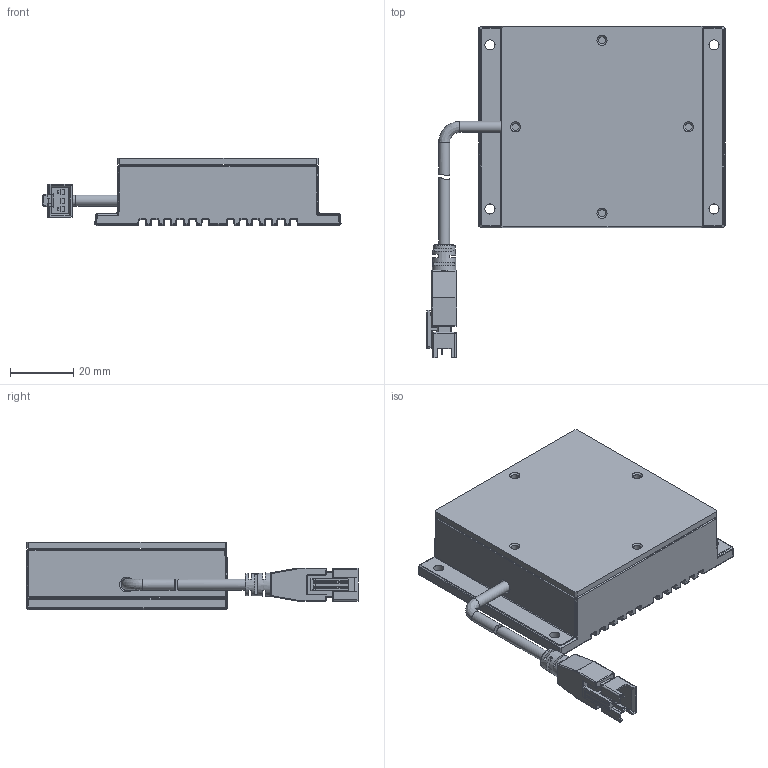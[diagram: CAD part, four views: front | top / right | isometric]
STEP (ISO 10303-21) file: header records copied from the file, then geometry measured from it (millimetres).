
FILE_DESCRIPTION (( 'STEP AP214' ), '1' );
FILE_NAME ('CST-PHFS5050-蚾饜极.STEP', '2021-06-02T01:05:26', ( '' ), ( '' ), 'SwSTEP 2.0', 'SolidWorks 2018', '' );
FILE_SCHEMA (( 'AUTOMOTIVE_DESIGN' ));
Length unit declared in the file: millimetre
Products named in the file (1): CST-PHFS5050-蚾饜极
Bounding box: 94.44 x 105.22 x 21.44 mm (x, y, z)
Surface area: 24317.4 mm2 (no closed solid volume)
Topology: 0 solids, 4 shells, 748 faces, 1970 edges, 1113 vertices
Faces by surface type: cylinder 365, plane 222, sphere 87, bspline 64, cone 5, torus 5
Full cylindrical faces by diameter (mm): 2.3 x4, 3.2 x4, 3.5 x3
Entity records: 31716 total; most frequent: CARTESIAN_POINT 6266, DIRECTION 3753, ORIENTED_EDGE 3372, EDGE_CURVE 1868, AXIS2_PLACEMENT_3D 1382, VERTEX_POINT 1070, VECTOR 989, LINE 989
